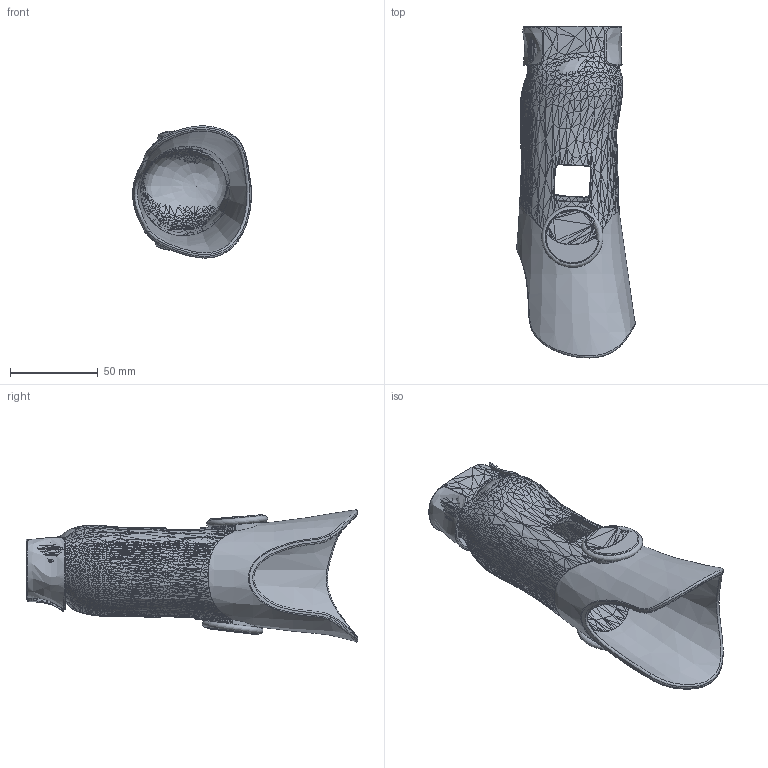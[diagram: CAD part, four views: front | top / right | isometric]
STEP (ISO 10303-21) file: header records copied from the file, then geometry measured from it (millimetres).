
FILE_DESCRIPTION(/* description */ (''),/* implementation_level */ '2;1');
FILE_NAME(/* name */ 'C:/Users/Gaëtan Parisot/Desktop/My Human Kit/Gaëtan PARISOT/Modélisation 3D/Emboiture simple/Nicolas - Emboiture simple test 2 v158.step',/* time_stamp */ '2018-07-11T09:25:10+02:00',/* author */ ('parisotgaetan@hotmail.fr'),/* organization */ (''),/* preprocessor_version */ 'ST-DEVELOPER v17',/* originating_system */ 'Autodesk Translation Framework v7.1.0.215',/* authorisation */ '');
FILE_SCHEMA (('AUTOMOTIVE_DESIGN { 1 0 10303 214 3 1 1 }'));
Products named in the file (7): Nicolas - Emboiture simple test 2; Connecteur joint torique; Connecteur joint torique_1; Joint torique N°21; Emboiture 2; Emboiture haut; Clip
Assembly tree (7 placements, depth 3):
  Nicolas - Emboiture simple test 2
    Connecteur joint torique
      Joint torique N°21
    Connecteur joint torique_1
      Joint torique N°21
    Emboiture 2
    Emboiture haut
    Clip
Bounding box: 67.88 x 189.6 x 75.52 mm (x, y, z)
Volume: 156771.3 mm3; surface area: 103335.4 mm2
Topology: 6 solids, 6 shells, 11312 faces, 17238 edges, 5931 vertices
Faces by surface type: plane 11132, bspline 149, cylinder 26, cone 5
Entity records: 232930 total; most frequent: CARTESIAN_POINT 45375, DIRECTION 39217, ORIENTED_EDGE 34468, EDGE_CURVE 17234, LINE 16795, VECTOR 16795, EDGE_LOOP 11322, FACE_OUTER_BOUND 11311
